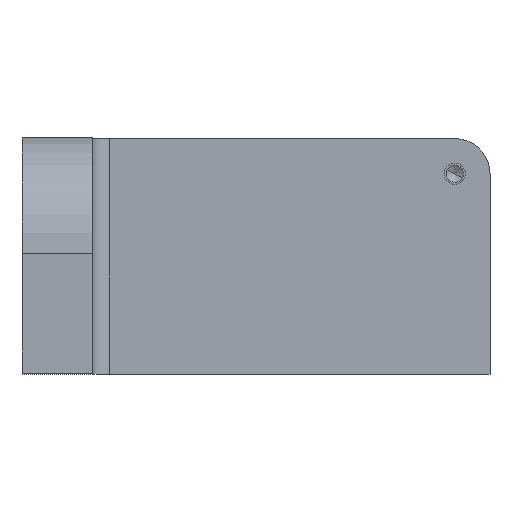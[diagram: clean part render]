
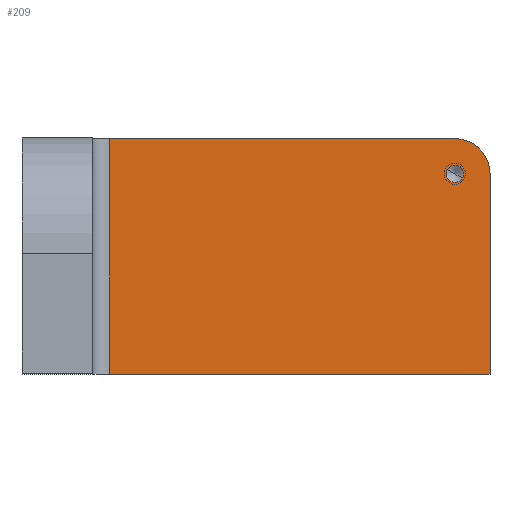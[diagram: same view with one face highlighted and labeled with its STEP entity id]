
A CAD part, top view. The second image highlights one B-rep face of the part: STEP entity #209.
In plain terms, the highlighted planar face has unit normal (0, 0, 1).
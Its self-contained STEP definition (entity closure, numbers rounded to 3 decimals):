
#144=CARTESIAN_POINT('Axis2P3D Location',(0.,0.,20.)) ;
#149=CARTESIAN_POINT('Line Origine',(79.,0.,20.)) ;
#153=CARTESIAN_POINT('Vertex',(25.,0.,20.)) ;
#155=CARTESIAN_POINT('Vertex',(133.,0.,20.)) ;
#158=CARTESIAN_POINT('Line Origine',(133.,28.5,20.)) ;
#162=CARTESIAN_POINT('Vertex',(133.,57.,20.)) ;
#165=CARTESIAN_POINT('Axis2P3D Location',(123.,57.,20.)) ;
#169=CARTESIAN_POINT('Vertex',(123.,67.,20.)) ;
#172=CARTESIAN_POINT('Line Origine',(74.,67.,20.)) ;
#176=CARTESIAN_POINT('Vertex',(25.,67.,20.)) ;
#179=CARTESIAN_POINT('Line Origine',(25.,33.5,20.)) ;
#191=CARTESIAN_POINT('Axis2P3D Location',(123.,57.,20.)) ;
#195=CARTESIAN_POINT('Vertex',(120.842,58.179,20.)) ;
#197=CARTESIAN_POINT('Vertex',(125.158,55.821,20.)) ;
#200=CARTESIAN_POINT('Axis2P3D Location',(123.,57.,20.)) ;
#145=DIRECTION('Axis2P3D Direction',(0.,0.,1.)) ;
#146=DIRECTION('Axis2P3D XDirection',(1.,0.,0.)) ;
#150=DIRECTION('Vector Direction',(1.,0.,0.)) ;
#159=DIRECTION('Vector Direction',(0.,1.,0.)) ;
#166=DIRECTION('Axis2P3D Direction',(0.,0.,1.)) ;
#173=DIRECTION('Vector Direction',(-1.,0.,0.)) ;
#180=DIRECTION('Vector Direction',(0.,-1.,0.)) ;
#192=DIRECTION('Axis2P3D Direction',(0.,0.,1.)) ;
#201=DIRECTION('Axis2P3D Direction',(0.,0.,1.)) ;
#147=AXIS2_PLACEMENT_3D('Plane Axis2P3D',#144,#145,#146) ;
#167=AXIS2_PLACEMENT_3D('Circle Axis2P3D',#165,#166,$) ;
#193=AXIS2_PLACEMENT_3D('Circle Axis2P3D',#191,#192,$) ;
#202=AXIS2_PLACEMENT_3D('Circle Axis2P3D',#200,#201,$) ;
#185=ORIENTED_EDGE('',*,*,#157,.T.) ;
#186=ORIENTED_EDGE('',*,*,#164,.T.) ;
#187=ORIENTED_EDGE('',*,*,#171,.T.) ;
#188=ORIENTED_EDGE('',*,*,#178,.T.) ;
#189=ORIENTED_EDGE('',*,*,#183,.F.) ;
#206=ORIENTED_EDGE('',*,*,#199,.F.) ;
#207=ORIENTED_EDGE('',*,*,#204,.F.) ;
#208=FACE_BOUND('',#205,.T.) ;
#151=VECTOR('Line Direction',#150,1.) ;
#160=VECTOR('Line Direction',#159,1.) ;
#174=VECTOR('Line Direction',#173,1.) ;
#181=VECTOR('Line Direction',#180,1.) ;
#209=ADVANCED_FACE('PartBody',(#190,#208),#148,.T.) ;
#168=CIRCLE('generated circle',#167,10.) ;
#194=CIRCLE('generated circle',#193,2.459) ;
#203=CIRCLE('generated circle',#202,2.459) ;
#157=EDGE_CURVE('',#154,#156,#152,.T.) ;
#164=EDGE_CURVE('',#156,#163,#161,.T.) ;
#171=EDGE_CURVE('',#163,#170,#168,.T.) ;
#178=EDGE_CURVE('',#170,#177,#175,.T.) ;
#183=EDGE_CURVE('',#154,#177,#182,.F.) ;
#199=EDGE_CURVE('',#196,#198,#194,.T.) ;
#204=EDGE_CURVE('',#198,#196,#203,.T.) ;
#184=EDGE_LOOP('',(#185,#186,#187,#188,#189)) ;
#205=EDGE_LOOP('',(#206,#207)) ;
#190=FACE_OUTER_BOUND('',#184,.T.) ;
#152=LINE('Line',#149,#151) ;
#161=LINE('Line',#158,#160) ;
#175=LINE('Line',#172,#174) ;
#182=LINE('Line',#179,#181) ;
#148=PLANE('',#147) ;
#154=VERTEX_POINT('',#153) ;
#156=VERTEX_POINT('',#155) ;
#163=VERTEX_POINT('',#162) ;
#170=VERTEX_POINT('',#169) ;
#177=VERTEX_POINT('',#176) ;
#196=VERTEX_POINT('',#195) ;
#198=VERTEX_POINT('',#197) ;
